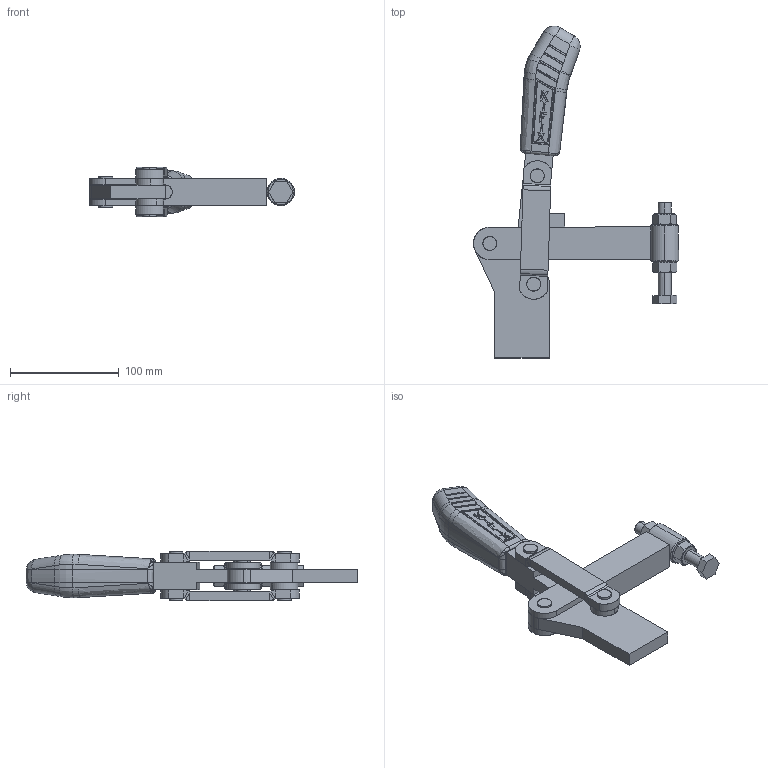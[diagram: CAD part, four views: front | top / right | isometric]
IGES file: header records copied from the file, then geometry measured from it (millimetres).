
Start section: SolidWorks IGES file using analytic representation for surfaces
Global section: file name: C:\Projetos\Grampos\KF-066\KF-066 S\KF-066 S.IGS; native system: SolidWorks 2013; preprocessor: SolidWorks 2013; author: Ricardo; date: 140813.155034; units: millimetre
Bounding box: 188.42 x 305.04 x 45.27 mm (x, y, z)
Surface area: 121147.4 mm2 (no closed solid volume)
Topology: 0 solids, 0 shells, 818 faces, 9811 edges, 9803 vertices
Faces by surface type: bspline 493, revolution 325
